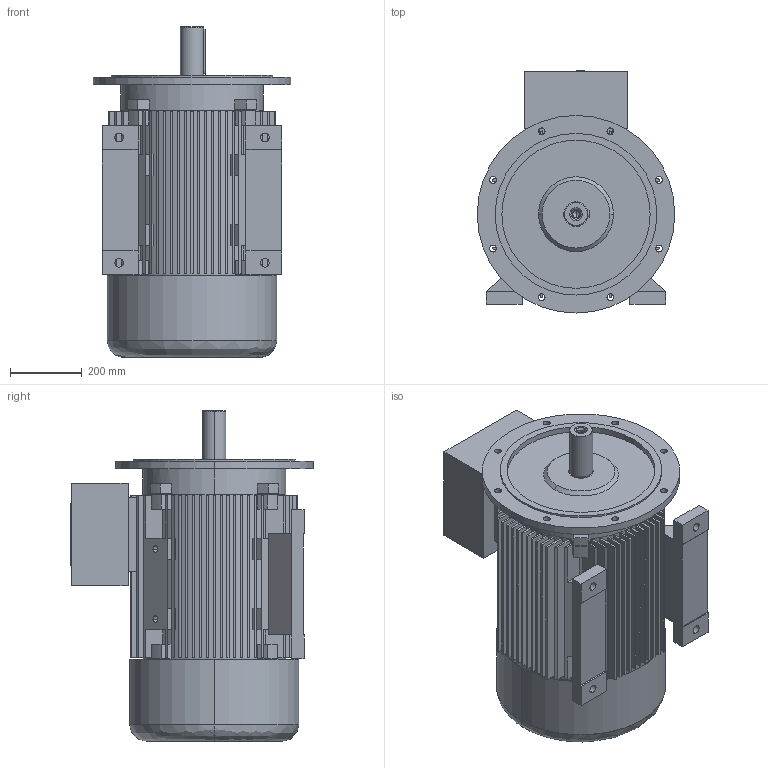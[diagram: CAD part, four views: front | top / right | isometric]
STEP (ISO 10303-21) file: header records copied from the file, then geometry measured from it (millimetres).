
FILE_DESCRIPTION (( 'STEP AP203' ), '1' );
FILE_NAME ('20.18428_C 7AT 250M - 4, -6,-8 B35 Exd STANDK.STEP', '2018-05-22T11:43:56', ( '' ), ( '' ), 'SwSTEP 2.0', 'SolidWorks 2017', '' );
FILE_SCHEMA (( 'CONFIG_CONTROL_DESIGN' ));
Length unit declared in the file: millimetre
Products named in the file (1): 20.18428_C 7AT 250M - 4, -6,-8 B35 Exd STANDK
Bounding box: 550 x 674 x 920 mm (x, y, z)
Volume: 52476633.5 mm3; surface area: 6402953.5 mm2
Topology: 8 solids, 8 shells, 834 faces, 2227 edges, 1465 vertices
Faces by surface type: plane 647, cylinder 140, cone 34, bspline 13
Entity records: 26585 total; most frequent: CARTESIAN_POINT 5330, ORIENTED_EDGE 4418, DIRECTION 4351, EDGE_CURVE 2209, LINE 1643, VECTOR 1643, VERTEX_POINT 1465, AXIS2_PLACEMENT_3D 1354
